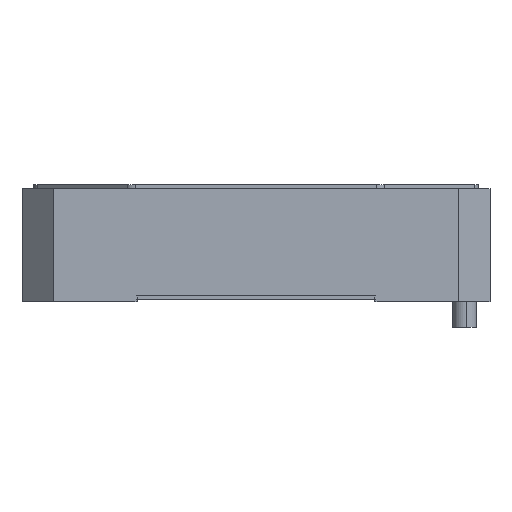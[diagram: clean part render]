
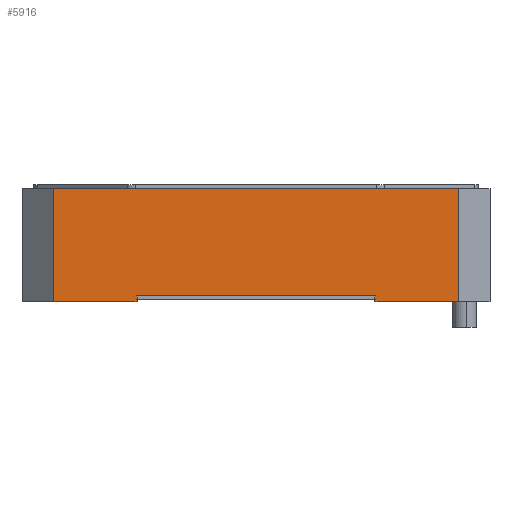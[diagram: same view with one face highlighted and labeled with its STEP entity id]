
A CAD part, left-side view. The second image highlights one B-rep face of the part: STEP entity #5916.
In plain terms, the highlighted planar face has unit normal (-1, 0, 0).
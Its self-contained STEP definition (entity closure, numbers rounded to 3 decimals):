
#12 = CARTESIAN_POINT ( 'NONE',  ( -60., -52., 29. ) ) ;
#218 = CARTESIAN_POINT ( 'NONE',  ( -60., -60., 0. ) ) ;
#349 = EDGE_CURVE ( 'NONE', #640, #835, #7002, .T. ) ;
#372 = AXIS2_PLACEMENT_3D ( 'NONE', #3227, #1622, #3852 ) ;
#434 = VERTEX_POINT ( 'NONE', #4504 ) ;
#443 = VERTEX_POINT ( 'NONE', #2791 ) ;
#489 = VERTEX_POINT ( 'NONE', #1598 ) ;
#535 = LINE ( 'NONE', #6313, #1781 ) ;
#640 = VERTEX_POINT ( 'NONE', #4218 ) ;
#650 = VECTOR ( 'NONE', #3492, 1000. ) ;
#679 = CARTESIAN_POINT ( 'NONE',  ( -60., -52., 29. ) ) ;
#731 = EDGE_CURVE ( 'NONE', #640, #434, #3609, .T. ) ;
#835 = VERTEX_POINT ( 'NONE', #12 ) ;
#857 = EDGE_CURVE ( 'NONE', #7218, #443, #2182, .T. ) ;
#943 = LINE ( 'NONE', #6741, #4391 ) ;
#972 = LINE ( 'NONE', #679, #1410 ) ;
#1010 = VECTOR ( 'NONE', #7069, 1000. ) ;
#1355 = EDGE_LOOP ( 'NONE', ( #5702, #6102, #3832, #6871, #6457, #1828, #5156, #5750 ) ) ;
#1410 = VECTOR ( 'NONE', #6872, 1000. ) ;
#1598 = CARTESIAN_POINT ( 'NONE',  ( -60., -52., 0. ) ) ;
#1622 = DIRECTION ( 'NONE',  ( 1., 0., 0. ) ) ;
#1683 = CARTESIAN_POINT ( 'NONE',  ( -60., -30.51, 1.5 ) ) ;
#1781 = VECTOR ( 'NONE', #3527, 1000. ) ;
#1828 = ORIENTED_EDGE ( 'NONE', *, *, #5560, .T. ) ;
#2043 = EDGE_CURVE ( 'NONE', #6307, #5859, #943, .T. ) ;
#2091 = VECTOR ( 'NONE', #2389, 1000. ) ;
#2151 = CARTESIAN_POINT ( 'NONE',  ( -60., 52., 29. ) ) ;
#2182 = LINE ( 'NONE', #1683, #2091 ) ;
#2389 = DIRECTION ( 'NONE',  ( 0., 0., -1. ) ) ;
#2684 = CARTESIAN_POINT ( 'NONE',  ( -60., -60., 29. ) ) ;
#2791 = CARTESIAN_POINT ( 'NONE',  ( -60., -30.51, 0. ) ) ;
#2901 = CARTESIAN_POINT ( 'NONE',  ( -60., 30.51, 1.5 ) ) ;
#3125 = EDGE_CURVE ( 'NONE', #7218, #6307, #3664, .T. ) ;
#3227 = CARTESIAN_POINT ( 'NONE',  ( -60., -60., 29. ) ) ;
#3293 = EDGE_CURVE ( 'NONE', #434, #5859, #4904, .T. ) ;
#3492 = DIRECTION ( 'NONE',  ( 0., 1., 0. ) ) ;
#3527 = DIRECTION ( 'NONE',  ( 0., -1., 0. ) ) ;
#3609 = LINE ( 'NONE', #2151, #6455 ) ;
#3664 = LINE ( 'NONE', #2901, #650 ) ;
#3832 = ORIENTED_EDGE ( 'NONE', *, *, #3125, .F. ) ;
#3852 = DIRECTION ( 'NONE',  ( 0., 0., -1. ) ) ;
#3855 = DIRECTION ( 'NONE',  ( 0., 0., -1. ) ) ;
#4218 = CARTESIAN_POINT ( 'NONE',  ( -60., 52., 29. ) ) ;
#4391 = VECTOR ( 'NONE', #3855, 1000. ) ;
#4392 = DIRECTION ( 'NONE',  ( 0., 0., -1. ) ) ;
#4401 = CARTESIAN_POINT ( 'NONE',  ( -60., 30.51, 0. ) ) ;
#4405 = DIRECTION ( 'NONE',  ( 0., -1., 0. ) ) ;
#4504 = CARTESIAN_POINT ( 'NONE',  ( -60., 52., 0. ) ) ;
#4564 = CARTESIAN_POINT ( 'NONE',  ( -60., 30.51, 1.5 ) ) ;
#4904 = LINE ( 'NONE', #218, #1010 ) ;
#5051 = FACE_OUTER_BOUND ( 'NONE', #1355, .T. ) ;
#5156 = ORIENTED_EDGE ( 'NONE', *, *, #349, .F. ) ;
#5560 = EDGE_CURVE ( 'NONE', #489, #835, #972, .T. ) ;
#5702 = ORIENTED_EDGE ( 'NONE', *, *, #3293, .T. ) ;
#5750 = ORIENTED_EDGE ( 'NONE', *, *, #731, .T. ) ;
#5859 = VERTEX_POINT ( 'NONE', #4401 ) ;
#5916 = ADVANCED_FACE ( 'NONE', ( #5051 ), #6073, .F. ) ;
#6028 = VECTOR ( 'NONE', #4405, 1000. ) ;
#6073 = PLANE ( 'NONE',  #372 ) ;
#6102 = ORIENTED_EDGE ( 'NONE', *, *, #2043, .F. ) ;
#6112 = EDGE_CURVE ( 'NONE', #443, #489, #535, .T. ) ;
#6233 = CARTESIAN_POINT ( 'NONE',  ( -60., -30.51, 1.5 ) ) ;
#6307 = VERTEX_POINT ( 'NONE', #4564 ) ;
#6313 = CARTESIAN_POINT ( 'NONE',  ( -60., -60., 0. ) ) ;
#6455 = VECTOR ( 'NONE', #4392, 1000. ) ;
#6457 = ORIENTED_EDGE ( 'NONE', *, *, #6112, .T. ) ;
#6741 = CARTESIAN_POINT ( 'NONE',  ( -60., 30.51, 1.5 ) ) ;
#6871 = ORIENTED_EDGE ( 'NONE', *, *, #857, .T. ) ;
#6872 = DIRECTION ( 'NONE',  ( 0., 0., 1. ) ) ;
#7002 = LINE ( 'NONE', #2684, #6028 ) ;
#7069 = DIRECTION ( 'NONE',  ( 0., -1., 0. ) ) ;
#7218 = VERTEX_POINT ( 'NONE', #6233 ) ;
